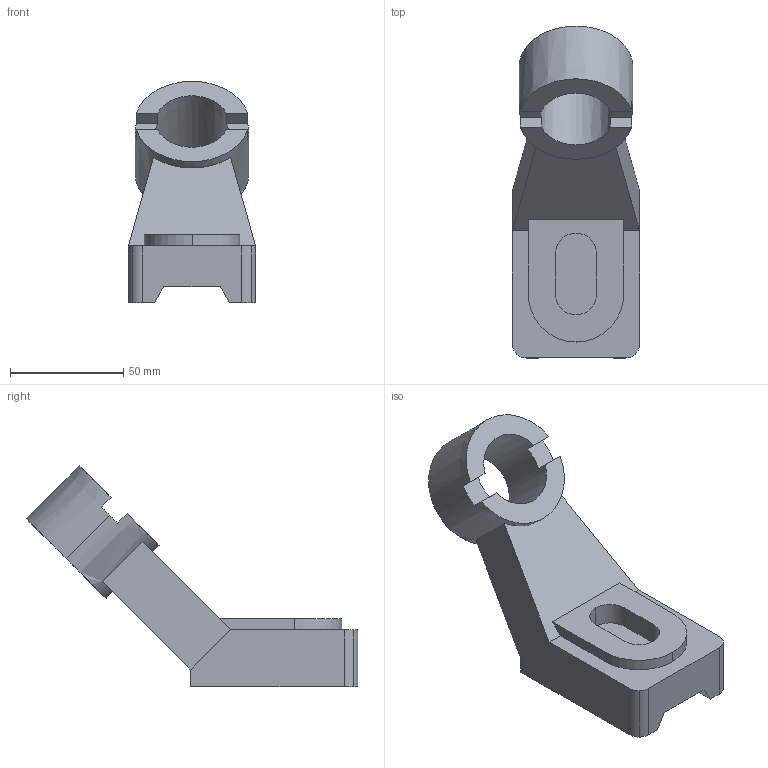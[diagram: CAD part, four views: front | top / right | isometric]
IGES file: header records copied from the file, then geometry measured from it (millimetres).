
Start section: ACIS data in IGES format
Global section: file name: cami2.igs; native system: ACIS(2.1); preprocessor: GSSL IGES writer V2.0; author: xxxx; organization: Geometric Software Services Co. Ltd.(GSSL); date: 9703 5:174141; units: millimetre
Bounding box: 56 x 146.18 x 97.51 mm (x, y, z)
Surface area: 31283.2 mm2 (no closed solid volume)
Topology: 0 solids, 0 shells, 43 faces, 232 edges, 232 vertices
Faces by surface type: extrusion 29, revolution 14
